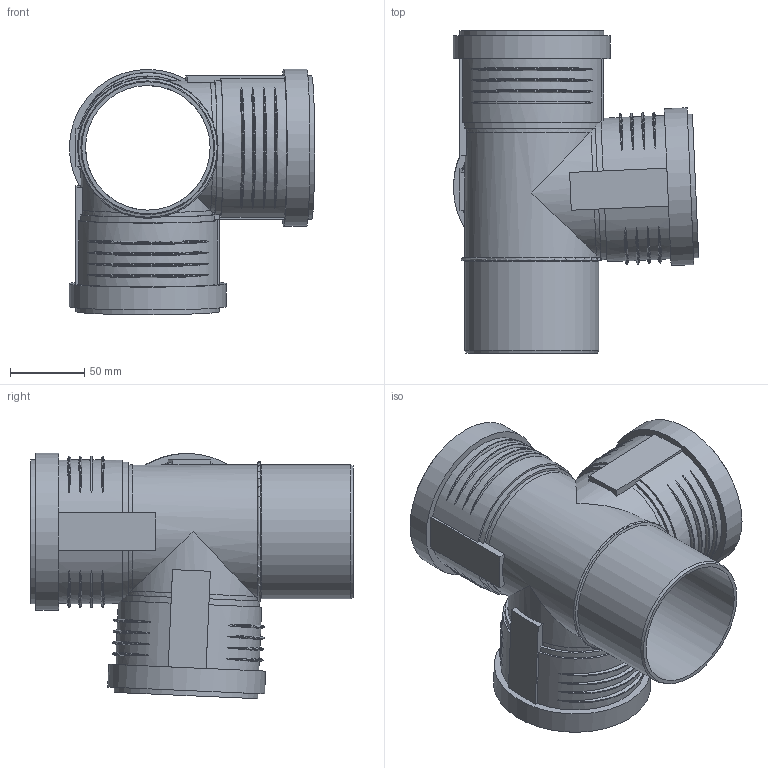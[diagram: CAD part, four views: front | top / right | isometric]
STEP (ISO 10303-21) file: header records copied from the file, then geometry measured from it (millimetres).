
FILE_DESCRIPTION(/* description */ (''),/* implementation_level */ '2;1');
FILE_NAME(/* name */ 'Z:\Geberit\Export\NewStep\390459.stp',/* time_stamp */ '2014-04-02T08:13:23+02:00',/* author */ ('ML'),/* organization */ (''),/* preprocessor_version */ 'ST-DEVELOPER v15.2',/* originating_system */ 'Autodesk Inventor 2014',/* authorisation */ '');
FILE_SCHEMA (('AUTOMOTIVE_DESIGN { 1 0 10303 214 3 1 1 }'));
Length unit declared in the file: millimetre
Products named in the file (5): 861370; 861463; 861463_1; 861463_2; 390459
Bounding box: 165.38 x 217.5 x 165.38 mm (x, y, z)
Volume: 331252 mm3; surface area: 233492.2 mm2
Topology: 4 solids, 5 shells, 197 faces, 496 edges, 341 vertices
Faces by surface type: torus 74, cylinder 60, plane 58, cone 5
Full cylindrical faces by diameter (mm): 84.02 x3, 84.6 x3, 90.2 x3, 91.2 x6, 96.8 x3, 100.2 x3, 105.8 x3
Entity records: 8153 total; most frequent: CARTESIAN_POINT 3418, ORIENTED_EDGE 912, DIRECTION 881, EDGE_CURVE 455, AXIS2_PLACEMENT_3D 389, VERTEX_POINT 332, EDGE_LOOP 274, ADVANCED_FACE 197
